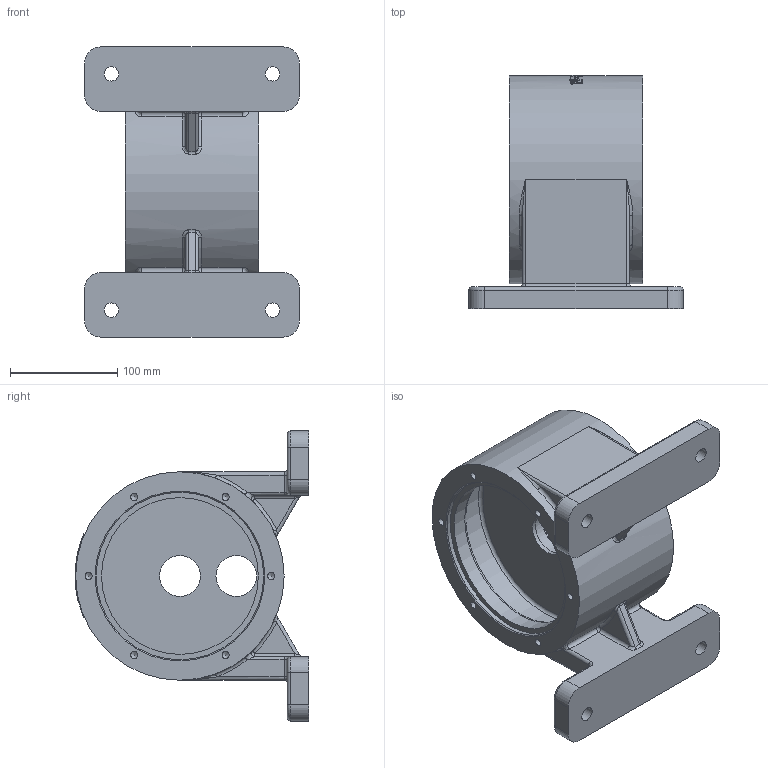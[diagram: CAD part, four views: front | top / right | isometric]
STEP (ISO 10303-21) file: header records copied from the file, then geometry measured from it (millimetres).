
FILE_DESCRIPTION(/* description */ (''),/* implementation_level */ '2;1');
FILE_NAME(/* name */ '',/* time_stamp */ '2026-03-27T11:17:48+09:00',/* author */ ('jhkim'),/* organization */ (''),/* preprocessor_version */ 'ST-DEVELOPER v20.1',/* originating_system */ 'Autodesk Inventor 2026',/* authorisation */ '');
FILE_SCHEMA (('AUTOMOTIVE_DESIGN { 1 0 10303 214 3 1 1 }'));
Length unit declared in the file: millimetre
Products named in the file (1): 본체
Bounding box: 200 x 217.5 x 270 mm (x, y, z)
Volume: 2083952.9 mm3; surface area: 305668 mm2
Topology: 1 solids, 1 shells, 393 faces, 984 edges, 622 vertices
Faces by surface type: plane 133, cylinder 104, bspline 101, torus 35, cone 16, sphere 4
Full cylindrical faces by diameter (mm): 6.647 x12, 13.5 x4, 33 x4, 38 x2, 42 x4, 44.5 x1, 146 x1, 156 x2, 174 x2, 194 x1
Entity records: 13597 total; most frequent: CARTESIAN_POINT 4590, ORIENTED_EDGE 1936, DIRECTION 1709, EDGE_CURVE 968, AXIS2_PLACEMENT_3D 642, VERTEX_POINT 622, EDGE_LOOP 452, LINE 425
